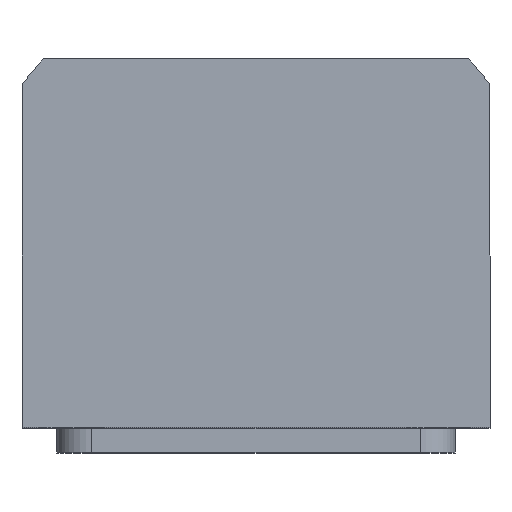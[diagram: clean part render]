
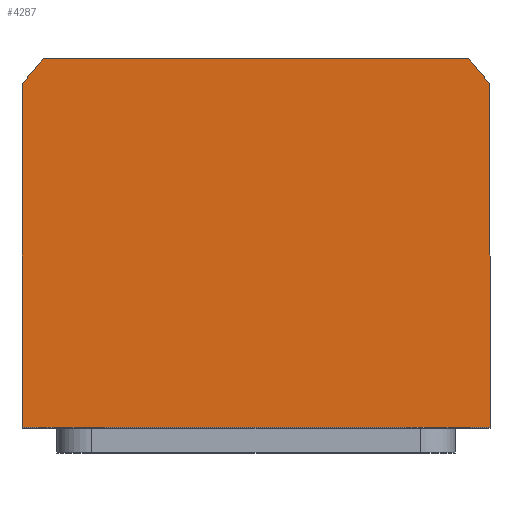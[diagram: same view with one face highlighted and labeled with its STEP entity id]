
A CAD part, top view. The second image highlights one B-rep face of the part: STEP entity #4287.
In plain terms, the highlighted planar face has unit normal (0, 0, 1).
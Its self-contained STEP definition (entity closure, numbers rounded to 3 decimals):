
#1073 = EDGE_CURVE ( 'NONE', #3934, #2711, #9895, .T. ) ;
#1093 = ORIENTED_EDGE ( 'NONE', *, *, #9922, .T. ) ;
#1154 = DIRECTION ( 'NONE',  ( -1., 0., 0. ) ) ;
#1296 = EDGE_CURVE ( 'NONE', #6633, #3934, #9332, .T. ) ;
#1432 = DIRECTION ( 'NONE',  ( 1., 0., 0. ) ) ;
#2099 = LINE ( 'NONE', #8204, #6449 ) ;
#2544 = CARTESIAN_POINT ( 'NONE',  ( 0., 0., 62.5 ) ) ;
#2594 = VECTOR ( 'NONE', #4684, 1000. ) ;
#2711 = VERTEX_POINT ( 'NONE', #5270 ) ;
#3015 = CIRCLE ( 'NONE', #10861, 58.5 ) ;
#3897 = VECTOR ( 'NONE', #1154, 1000. ) ;
#3934 = VERTEX_POINT ( 'NONE', #6190 ) ;
#3961 = EDGE_LOOP ( 'NONE', ( #5923, #6347, #7114, #7058, #5683, #1093 ) ) ;
#4204 = DIRECTION ( 'NONE',  ( 0., 0., 1. ) ) ;
#4287 = ADVANCED_FACE ( 'NONE', ( #6711 ), #11291, .T. ) ;
#4313 = DIRECTION ( 'NONE',  ( 1., 0., 0. ) ) ;
#4608 = EDGE_CURVE ( 'NONE', #9170, #6633, #2099, .T. ) ;
#4638 = CARTESIAN_POINT ( 'NONE',  ( -42.688, 40., 62.5 ) ) ;
#4684 = DIRECTION ( 'NONE',  ( 0., -1., 0. ) ) ;
#5270 = CARTESIAN_POINT ( 'NONE',  ( 42.688, 40., 62.5 ) ) ;
#5667 = LINE ( 'NONE', #4638, #3897 ) ;
#5683 = ORIENTED_EDGE ( 'NONE', *, *, #7277, .T. ) ;
#5907 = CARTESIAN_POINT ( 'NONE',  ( 47., -34., 62.5 ) ) ;
#5923 = ORIENTED_EDGE ( 'NONE', *, *, #4608, .T. ) ;
#6161 = CARTESIAN_POINT ( 'NONE',  ( -47., -34., 62.5 ) ) ;
#6190 = CARTESIAN_POINT ( 'NONE',  ( 47., 34.832, 62.5 ) ) ;
#6347 = ORIENTED_EDGE ( 'NONE', *, *, #1296, .T. ) ;
#6408 = VERTEX_POINT ( 'NONE', #9688 ) ;
#6449 = VECTOR ( 'NONE', #1432, 1000. ) ;
#6517 = AXIS2_PLACEMENT_3D ( 'NONE', #7845, #4204, #7678 ) ;
#6633 = VERTEX_POINT ( 'NONE', #5907 ) ;
#6711 = FACE_OUTER_BOUND ( 'NONE', #3961, .T. ) ;
#6712 = CARTESIAN_POINT ( 'NONE',  ( -47., 34.832, 62.5 ) ) ;
#7058 = ORIENTED_EDGE ( 'NONE', *, *, #10733, .T. ) ;
#7064 = CARTESIAN_POINT ( 'NONE',  ( -47., -34., 62.5 ) ) ;
#7114 = ORIENTED_EDGE ( 'NONE', *, *, #1073, .T. ) ;
#7277 = EDGE_CURVE ( 'NONE', #6408, #9638, #3015, .T. ) ;
#7552 = CARTESIAN_POINT ( 'NONE',  ( 0., 0., 62.5 ) ) ;
#7591 = DIRECTION ( 'NONE',  ( 0., 0., 1. ) ) ;
#7612 = DIRECTION ( 'NONE',  ( 0., 1., 0. ) ) ;
#7678 = DIRECTION ( 'NONE',  ( 1., 0., 0. ) ) ;
#7845 = CARTESIAN_POINT ( 'NONE',  ( 0., 0., 62.5 ) ) ;
#8204 = CARTESIAN_POINT ( 'NONE',  ( 47., -34., 62.5 ) ) ;
#9170 = VERTEX_POINT ( 'NONE', #6161 ) ;
#9332 = LINE ( 'NONE', #11025, #10023 ) ;
#9638 = VERTEX_POINT ( 'NONE', #6712 ) ;
#9688 = CARTESIAN_POINT ( 'NONE',  ( -42.688, 40., 62.5 ) ) ;
#9895 = CIRCLE ( 'NONE', #10961, 58.5 ) ;
#9922 = EDGE_CURVE ( 'NONE', #9638, #9170, #10501, .T. ) ;
#10023 = VECTOR ( 'NONE', #7612, 1000. ) ;
#10501 = LINE ( 'NONE', #7064, #2594 ) ;
#10733 = EDGE_CURVE ( 'NONE', #2711, #6408, #5667, .T. ) ;
#10861 = AXIS2_PLACEMENT_3D ( 'NONE', #2544, #11237, #4313 ) ;
#10961 = AXIS2_PLACEMENT_3D ( 'NONE', #7552, #7591, #11043 ) ;
#11025 = CARTESIAN_POINT ( 'NONE',  ( 47., 34.832, 62.5 ) ) ;
#11043 = DIRECTION ( 'NONE',  ( 1., 0., 0. ) ) ;
#11237 = DIRECTION ( 'NONE',  ( 0., 0., 1. ) ) ;
#11291 = PLANE ( 'NONE',  #6517 ) ;
